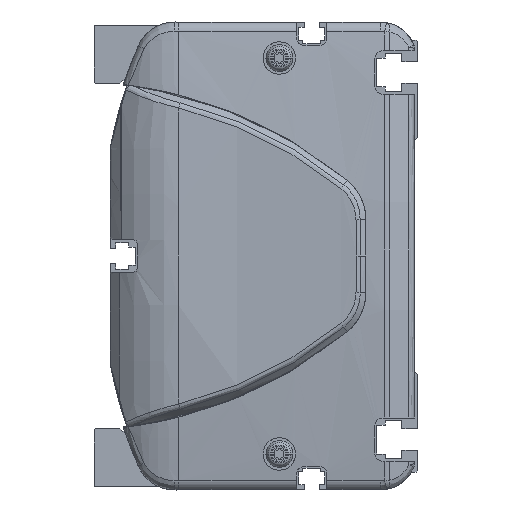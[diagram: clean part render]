
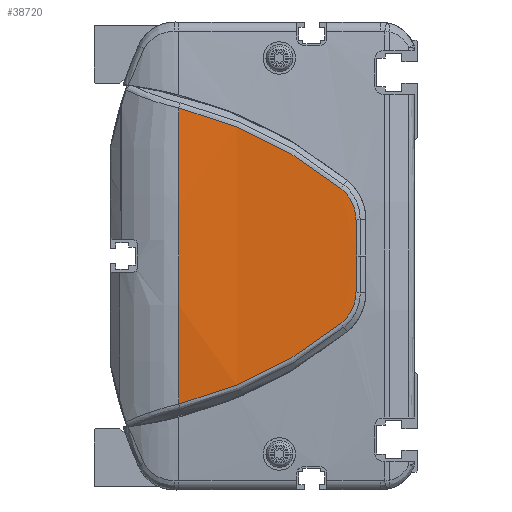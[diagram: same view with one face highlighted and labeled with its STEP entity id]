
A CAD part, left-side view. The second image highlights one B-rep face of the part: STEP entity #38720.
In plain terms, the highlighted cylindrical face has radius 500 mm (diameter 1000 mm), a partial arc.
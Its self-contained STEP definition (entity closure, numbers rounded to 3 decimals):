
#34961=CARTESIAN_POINT('',(486.,66.362,0.));
#34962=DIRECTION('',(0.,-1.,0.));
#34963=DIRECTION('',(-0.997,0.,0.082));
#34964=AXIS2_PLACEMENT_3D('',#34961,#34962,#34963);
#35838=CARTESIAN_POINT('',(-13.648,21.313,
-18.759));
#35839=CARTESIAN_POINT('',(-13.449,27.904,
-24.058));
#35840=CARTESIAN_POINT('',(-12.934,42.195,
-33.27));
#35841=CARTESIAN_POINT('',(-12.471,58.156,
-39.127));
#35842=CARTESIAN_POINT('',(-12.306,66.362,
-41.121));
#35844=CARTESIAN_POINT('',(-12.306,66.362,
41.121));
#35845=CARTESIAN_POINT('',(-12.471,58.156,
39.127));
#35846=CARTESIAN_POINT('',(-12.934,42.195,
33.27));
#35847=CARTESIAN_POINT('',(-13.449,27.904,
24.058));
#35848=CARTESIAN_POINT('',(-13.648,21.313,
18.759));
#35850=CARTESIAN_POINT('',(-13.648,21.313,
18.759));
#35851=CARTESIAN_POINT('',(-13.686,20.035,
17.736));
#35852=CARTESIAN_POINT('',(-13.779,17.936,
15.107));
#35853=CARTESIAN_POINT('',(-13.863,17.152,
11.827));
#35854=CARTESIAN_POINT('',(-13.896,17.124,
10.178));
#35856=CARTESIAN_POINT('',(-13.896,17.124,
10.178));
#35857=CARTESIAN_POINT('',(-13.92,17.107,
9.026));
#35858=CARTESIAN_POINT('',(-13.959,17.067,
6.734));
#35859=CARTESIAN_POINT('',(-13.993,16.98,
3.34));
#35860=CARTESIAN_POINT('',(-14.,16.898,
1.108));
#35861=CARTESIAN_POINT('',(-14.,16.849,
0.));
#35863=CARTESIAN_POINT('',(-14.,16.849,
0.));
#35864=CARTESIAN_POINT('',(-14.,16.898,
-1.108));
#35865=CARTESIAN_POINT('',(-13.993,16.98,
-3.34));
#35866=CARTESIAN_POINT('',(-13.959,17.067,
-6.733));
#35867=CARTESIAN_POINT('',(-13.92,17.107,
-9.027));
#35868=CARTESIAN_POINT('',(-13.896,17.124,
-10.18));
#35870=CARTESIAN_POINT('',(-13.896,17.124,
-10.18));
#35871=CARTESIAN_POINT('',(-13.863,17.152,
-11.828));
#35872=CARTESIAN_POINT('',(-13.779,17.937,
-15.109));
#35873=CARTESIAN_POINT('',(-13.686,20.035,
-17.736));
#35874=CARTESIAN_POINT('',(-13.648,21.313,
-18.759));
#36540=VERTEX_POINT('',#35838);
#36541=VERTEX_POINT('',#35842);
#36542=CARTESIAN_POINT('',(-12.306,66.362,
41.121));
#36543=VERTEX_POINT('',#36542);
#36544=VERTEX_POINT('',#35848);
#36545=VERTEX_POINT('',#35854);
#36546=VERTEX_POINT('',#35861);
#36547=VERTEX_POINT('',#35868);
#38701=CARTESIAN_POINT('',(486.,8.006,0.));
#38702=DIRECTION('',(0.,1.,0.));
#38703=DIRECTION('',(1.,0.,0.));
#38704=AXIS2_PLACEMENT_3D('',#38701,#38702,#38703);
#38705=CYLINDRICAL_SURFACE('',#38704,500.);
#38707=ORIENTED_EDGE('',*,*,#38706,.T.);
#38708=ORIENTED_EDGE('',*,*,#37341,.F.);
#38710=ORIENTED_EDGE('',*,*,#38709,.T.);
#38712=ORIENTED_EDGE('',*,*,#38711,.T.);
#38714=ORIENTED_EDGE('',*,*,#38713,.T.);
#38716=ORIENTED_EDGE('',*,*,#38715,.T.);
#38717=ORIENTED_EDGE('',*,*,#38691,.T.);
#38718=EDGE_LOOP('',(#38707,#38708,#38710,#38712,#38714,#38716,#38717));
#38719=FACE_OUTER_BOUND('',#38718,.F.);
#38720=ADVANCED_FACE('',(#38719),#38705,.T.);
#34965=CIRCLE('',#34964,500.);
#35843=B_SPLINE_CURVE_WITH_KNOTS('',3,(#35838,#35839,#35840,#35841,#35842),
.UNSPECIFIED.,.F.,.F.,(4,1,4),(0.,0.5,1.),.UNSPECIFIED.);
#35849=B_SPLINE_CURVE_WITH_KNOTS('',3,(#35844,#35845,#35846,#35847,#35848),
.UNSPECIFIED.,.F.,.F.,(4,1,4),(0.,0.5,1.),.UNSPECIFIED.);
#35855=B_SPLINE_CURVE_WITH_KNOTS('',3,(#35850,#35851,#35852,#35853,#35854),
.UNSPECIFIED.,.F.,.F.,(4,1,4),(0.,0.5,1.),.UNSPECIFIED.);
#35862=B_SPLINE_CURVE_WITH_KNOTS('',3,(#35856,#35857,#35858,#35859,#35860,
#35861),.UNSPECIFIED.,.F.,.F.,(4,1,1,4),(0.,0.333,
0.667,1.),.UNSPECIFIED.);
#35869=B_SPLINE_CURVE_WITH_KNOTS('',3,(#35863,#35864,#35865,#35866,#35867,
#35868),.UNSPECIFIED.,.F.,.F.,(4,1,1,4),(0.,0.333,
0.667,1.),.UNSPECIFIED.);
#35875=B_SPLINE_CURVE_WITH_KNOTS('',3,(#35870,#35871,#35872,#35873,#35874),
.UNSPECIFIED.,.F.,.F.,(4,1,4),(0.,0.5,1.),.UNSPECIFIED.);
#37341=EDGE_CURVE('',#36543,#36541,#34965,.T.);
#38691=EDGE_CURVE('',#36547,#36540,#35875,.T.);
#38706=EDGE_CURVE('',#36540,#36541,#35843,.T.);
#38709=EDGE_CURVE('',#36543,#36544,#35849,.T.);
#38711=EDGE_CURVE('',#36544,#36545,#35855,.T.);
#38713=EDGE_CURVE('',#36545,#36546,#35862,.T.);
#38715=EDGE_CURVE('',#36546,#36547,#35869,.T.);
